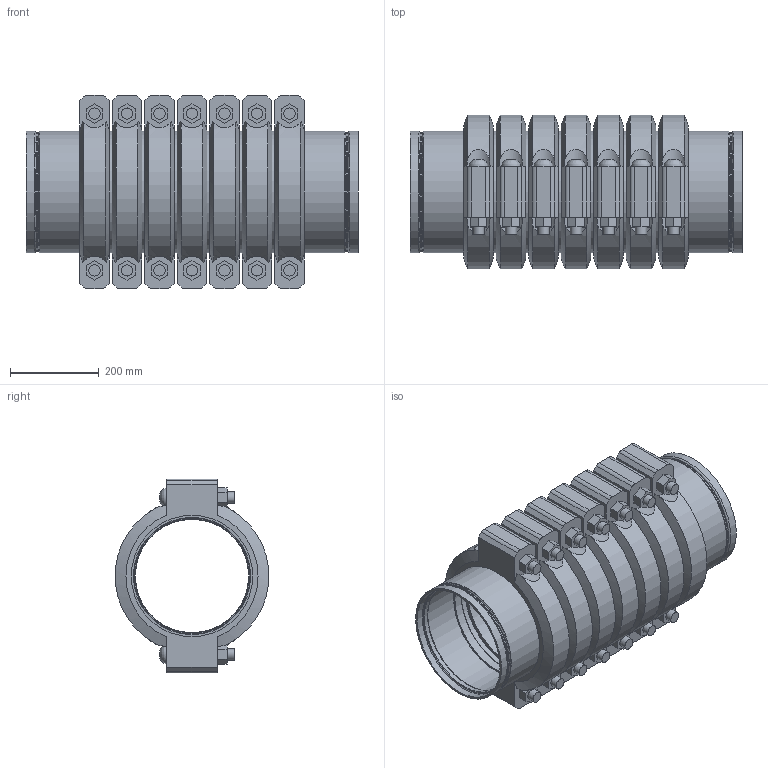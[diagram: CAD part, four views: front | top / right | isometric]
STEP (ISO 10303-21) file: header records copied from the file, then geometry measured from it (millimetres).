
FILE_DESCRIPTION(/* description */ ('VIC STRENGTHIN 100 EXPANSION JOINT 7 COUPLINGS NEUTRAL STYLE E155 (ST1)','CAx-IF Rec.Pracs.---Representation and Presentation of Product Manufacturing Information (PMI)---4.0---2014-10-13'),/* implementation_level */ '2;1');
FILE_NAME(/* name */ 'C:\Users\Vjadhav\AppData\Roaming\Autodesk\ApplicationPlugins\Victaulic.Temp\A857\Victaulic_SS-StrengThin 100_Expansion Joint_Neutral_7 Couplings_Style E155 (ST1)_7 Coup_Neut_10 (250).stp',/* time_stamp */ '2021-07-20T17:50:10+05:00',/* author */ ('kkamble'),/* organization */ ('Victaulic'),/* preprocessor_version */ 'ST-DEVELOPER v17.2',/* originating_system */ 'Autodesk Inventor 2019',/* authorisation */ '');
FILE_SCHEMA (('AP242_MANAGED_MODEL_BASED_3D_ENGINEERING_MIM_LF { 1 0 10303 442 1 1 4 }'));
Length unit declared in the file: inch
Products named in the file (4): E155-10.0; E494G-10.0; Nipple-10.0; 077-10.0
Assembly tree (15 placements, depth 2):
  E155-10.0
    E494G-10.0  x2
    Nipple-10.0  x6
    077-10.0  x7
Bounding box: 746.25 x 344.9 x 435.1 mm (x, y, z)
Volume: 24727785.9 mm3; surface area: 3347801.5 mm2
Topology: 15 solids, 29 shells, 569 faces, 1425 edges, 1004 vertices
Faces by surface type: plane 302, cylinder 189, torus 32, cone 32, bspline 14
Full cylindrical faces by diameter (mm): 25.4 x28, 27.432 x14, 254.508 x6, 255.626 x2, 258.724 x2, 263.5 x6, 264.16 x7, 265.176 x2, 268.275 x14, 273.05 x38
Entity records: 4105 total; most frequent: CARTESIAN_POINT 850, DIRECTION 695, ORIENTED_EDGE 580, AXIS2_PLACEMENT_3D 300, EDGE_CURVE 290, VERTEX_POINT 209, CIRCLE 175, EDGE_LOOP 135
